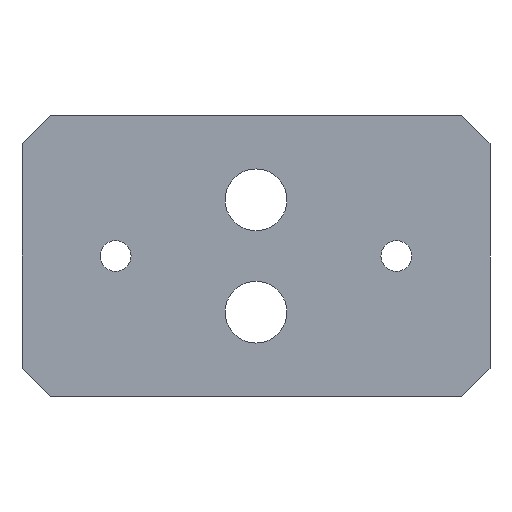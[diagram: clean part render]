
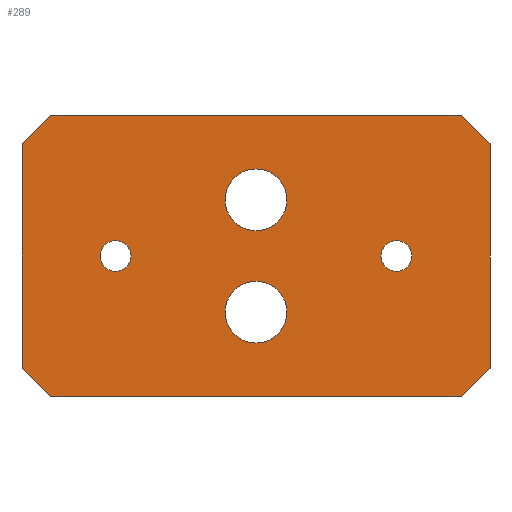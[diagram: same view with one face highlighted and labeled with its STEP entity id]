
A CAD part, front view. The second image highlights one B-rep face of the part: STEP entity #289.
In plain terms, the highlighted planar face has unit normal (0, -1, 0).
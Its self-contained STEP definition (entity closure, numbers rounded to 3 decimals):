
#2 = VERTEX_POINT ( 'NONE', #607 ) ;
#3 = DIRECTION ( 'NONE',  ( 1., 0., 0. ) ) ;
#9 = CARTESIAN_POINT ( 'NONE',  ( -18.5, 0., -18.5 ) ) ;
#29 = AXIS2_PLACEMENT_3D ( 'NONE', #798, #584, #784 ) ;
#30 = DIRECTION ( 'NONE',  ( 0., 0., 1. ) ) ;
#32 = DIRECTION ( 'NONE',  ( 0., 0., -1. ) ) ;
#33 = CARTESIAN_POINT ( 'NONE',  ( 0., 0., -6. ) ) ;
#40 = VERTEX_POINT ( 'NONE', #869 ) ;
#43 = VERTEX_POINT ( 'NONE', #789 ) ;
#44 = CARTESIAN_POINT ( 'NONE',  ( 0., 0., -2.7 ) ) ;
#51 = CARTESIAN_POINT ( 'NONE',  ( 18.5, 0., -18.5 ) ) ;
#61 = EDGE_LOOP ( 'NONE', ( #975, #978, #772, #299, #407, #528, #514, #505 ) ) ;
#69 = VERTEX_POINT ( 'NONE', #502 ) ;
#70 = EDGE_CURVE ( 'NONE', #889, #243, #329, .T. ) ;
#71 = LINE ( 'NONE', #387, #795 ) ;
#78 = LINE ( 'NONE', #292, #688 ) ;
#90 = CARTESIAN_POINT ( 'NONE',  ( -25., 0., 15. ) ) ;
#101 = CARTESIAN_POINT ( 'NONE',  ( 25., 0., -12. ) ) ;
#106 = EDGE_CURVE ( 'NONE', #889, #808, #71, .T. ) ;
#109 = VECTOR ( 'NONE', #609, 1000. ) ;
#117 = EDGE_LOOP ( 'NONE', ( #557, #433 ) ) ;
#126 = EDGE_CURVE ( 'NONE', #40, #599, #440, .T. ) ;
#139 = AXIS2_PLACEMENT_3D ( 'NONE', #33, #333, #489 ) ;
#158 = VECTOR ( 'NONE', #3, 1000. ) ;
#175 = EDGE_CURVE ( 'NONE', #599, #40, #541, .T. ) ;
#181 = CARTESIAN_POINT ( 'NONE',  ( -15., 0., 0. ) ) ;
#188 = EDGE_CURVE ( 'NONE', #734, #564, #493, .T. ) ;
#193 = FACE_BOUND ( 'NONE', #435, .T. ) ;
#195 = CARTESIAN_POINT ( 'NONE',  ( -25., 0., 12. ) ) ;
#208 = EDGE_CURVE ( 'NONE', #875, #381, #558, .T. ) ;
#210 = CARTESIAN_POINT ( 'NONE',  ( -15., 0., 0. ) ) ;
#214 = ORIENTED_EDGE ( 'NONE', *, *, #561, .T. ) ;
#218 = AXIS2_PLACEMENT_3D ( 'NONE', #760, #239, #827 ) ;
#225 = DIRECTION ( 'NONE',  ( 0.707, 0., -0.707 ) ) ;
#234 = CARTESIAN_POINT ( 'NONE',  ( 0., 0., 2.7 ) ) ;
#239 = DIRECTION ( 'NONE',  ( 0., -1., 0. ) ) ;
#243 = VERTEX_POINT ( 'NONE', #341 ) ;
#244 = CARTESIAN_POINT ( 'NONE',  ( 0., 0., 6. ) ) ;
#289 = ADVANCED_FACE ( 'NONE', ( #193, #853, #327, #497, #927 ), #644, .T. ) ;
#292 = CARTESIAN_POINT ( 'NONE',  ( 18.5, 0., 18.5 ) ) ;
#299 = ORIENTED_EDGE ( 'NONE', *, *, #483, .T. ) ;
#303 = DIRECTION ( 'NONE',  ( -0.707, 0., 0.707 ) ) ;
#308 = EDGE_CURVE ( 'NONE', #864, #69, #596, .T. ) ;
#316 = DIRECTION ( 'NONE',  ( 0., 1., 0. ) ) ;
#323 = CARTESIAN_POINT ( 'NONE',  ( -22., 0., -15. ) ) ;
#326 = VERTEX_POINT ( 'NONE', #554 ) ;
#327 = FACE_BOUND ( 'NONE', #117, .T. ) ;
#329 = LINE ( 'NONE', #452, #158 ) ;
#333 = DIRECTION ( 'NONE',  ( 0., -1., 0. ) ) ;
#337 = DIRECTION ( 'NONE',  ( 0., 0., -1. ) ) ;
#341 = CARTESIAN_POINT ( 'NONE',  ( 22., 0., 15. ) ) ;
#345 = ORIENTED_EDGE ( 'NONE', *, *, #370, .T. ) ;
#360 = CARTESIAN_POINT ( 'NONE',  ( -22., 0., 15. ) ) ;
#364 = VERTEX_POINT ( 'NONE', #323 ) ;
#370 = EDGE_CURVE ( 'NONE', #2, #597, #898, .T. ) ;
#373 = CIRCLE ( 'NONE', #949, 1.65 ) ;
#374 = LINE ( 'NONE', #9, #672 ) ;
#381 = VERTEX_POINT ( 'NONE', #101 ) ;
#384 = DIRECTION ( 'NONE',  ( 0., 0., 1. ) ) ;
#387 = CARTESIAN_POINT ( 'NONE',  ( -18.5, 0., 18.5 ) ) ;
#392 = CIRCLE ( 'NONE', #964, 1.65 ) ;
#407 = ORIENTED_EDGE ( 'NONE', *, *, #70, .F. ) ;
#415 = DIRECTION ( 'NONE',  ( 0., 0., -1. ) ) ;
#424 = VECTOR ( 'NONE', #30, 1000. ) ;
#425 = ORIENTED_EDGE ( 'NONE', *, *, #308, .T. ) ;
#432 = EDGE_CURVE ( 'NONE', #43, #808, #862, .T. ) ;
#433 = ORIENTED_EDGE ( 'NONE', *, *, #831, .F. ) ;
#435 = EDGE_LOOP ( 'NONE', ( #839, #425 ) ) ;
#440 = CIRCLE ( 'NONE', #218, 3.3 ) ;
#452 = CARTESIAN_POINT ( 'NONE',  ( -25., 0., 15. ) ) ;
#459 = DIRECTION ( 'NONE',  ( -1., 0., 0. ) ) ;
#472 = DIRECTION ( 'NONE',  ( 0., 0., -1. ) ) ;
#481 = DIRECTION ( 'NONE',  ( 0., 1., 0. ) ) ;
#483 = EDGE_CURVE ( 'NONE', #875, #243, #78, .T. ) ;
#488 = DIRECTION ( 'NONE',  ( 0., -1., 0. ) ) ;
#489 = DIRECTION ( 'NONE',  ( 0., 0., -1. ) ) ;
#492 = EDGE_CURVE ( 'NONE', #326, #364, #526, .T. ) ;
#493 = CIRCLE ( 'NONE', #736, 3.3 ) ;
#497 = FACE_BOUND ( 'NONE', #969, .T. ) ;
#502 = CARTESIAN_POINT ( 'NONE',  ( -15., 0., 1.65 ) ) ;
#505 = ORIENTED_EDGE ( 'NONE', *, *, #520, .T. ) ;
#508 = AXIS2_PLACEMENT_3D ( 'NONE', #181, #481, #562 ) ;
#514 = ORIENTED_EDGE ( 'NONE', *, *, #432, .F. ) ;
#515 = DIRECTION ( 'NONE',  ( 0., 1., 0. ) ) ;
#520 = EDGE_CURVE ( 'NONE', #43, #364, #374, .T. ) ;
#525 = CARTESIAN_POINT ( 'NONE',  ( 0., 0., -9.3 ) ) ;
#526 = LINE ( 'NONE', #684, #621 ) ;
#528 = ORIENTED_EDGE ( 'NONE', *, *, #106, .T. ) ;
#541 = CIRCLE ( 'NONE', #779, 3.3 ) ;
#554 = CARTESIAN_POINT ( 'NONE',  ( 22., 0., -15. ) ) ;
#557 = ORIENTED_EDGE ( 'NONE', *, *, #188, .F. ) ;
#558 = LINE ( 'NONE', #631, #818 ) ;
#560 = AXIS2_PLACEMENT_3D ( 'NONE', #936, #638, #337 ) ;
#561 = EDGE_CURVE ( 'NONE', #597, #2, #373, .T. ) ;
#562 = DIRECTION ( 'NONE',  ( 0., 0., 1. ) ) ;
#564 = VERTEX_POINT ( 'NONE', #525 ) ;
#572 = EDGE_LOOP ( 'NONE', ( #345, #214 ) ) ;
#578 = CARTESIAN_POINT ( 'NONE',  ( 0., 0., -6. ) ) ;
#584 = DIRECTION ( 'NONE',  ( 0., 1., 0. ) ) ;
#596 = CIRCLE ( 'NONE', #508, 1.65 ) ;
#597 = VERTEX_POINT ( 'NONE', #622 ) ;
#599 = VERTEX_POINT ( 'NONE', #234 ) ;
#607 = CARTESIAN_POINT ( 'NONE',  ( 15., 0., 1.65 ) ) ;
#609 = DIRECTION ( 'NONE',  ( 0.707, 0., 0.707 ) ) ;
#621 = VECTOR ( 'NONE', #459, 1000. ) ;
#622 = CARTESIAN_POINT ( 'NONE',  ( 15., 0., -1.65 ) ) ;
#631 = CARTESIAN_POINT ( 'NONE',  ( 25., 0., 15. ) ) ;
#638 = DIRECTION ( 'NONE',  ( 0., -1., 0. ) ) ;
#644 = PLANE ( 'NONE',  #560 ) ;
#661 = CIRCLE ( 'NONE', #139, 3.3 ) ;
#672 = VECTOR ( 'NONE', #225, 1000. ) ;
#677 = LINE ( 'NONE', #51, #109 ) ;
#684 = CARTESIAN_POINT ( 'NONE',  ( -25., 0., -15. ) ) ;
#687 = DIRECTION ( 'NONE',  ( -0.707, 0., -0.707 ) ) ;
#688 = VECTOR ( 'NONE', #303, 1000. ) ;
#726 = DIRECTION ( 'NONE',  ( 0., -1., 0. ) ) ;
#734 = VERTEX_POINT ( 'NONE', #44 ) ;
#736 = AXIS2_PLACEMENT_3D ( 'NONE', #578, #726, #32 ) ;
#737 = ORIENTED_EDGE ( 'NONE', *, *, #175, .F. ) ;
#745 = CARTESIAN_POINT ( 'NONE',  ( -15., 0., -1.65 ) ) ;
#760 = CARTESIAN_POINT ( 'NONE',  ( 0., 0., 6. ) ) ;
#772 = ORIENTED_EDGE ( 'NONE', *, *, #208, .F. ) ;
#779 = AXIS2_PLACEMENT_3D ( 'NONE', #244, #488, #415 ) ;
#784 = DIRECTION ( 'NONE',  ( 0., 0., 1. ) ) ;
#786 = ORIENTED_EDGE ( 'NONE', *, *, #126, .F. ) ;
#789 = CARTESIAN_POINT ( 'NONE',  ( -25., 0., -12. ) ) ;
#795 = VECTOR ( 'NONE', #687, 1000. ) ;
#798 = CARTESIAN_POINT ( 'NONE',  ( 15., 0., 0. ) ) ;
#808 = VERTEX_POINT ( 'NONE', #195 ) ;
#818 = VECTOR ( 'NONE', #472, 1000. ) ;
#827 = DIRECTION ( 'NONE',  ( 0., 0., -1. ) ) ;
#831 = EDGE_CURVE ( 'NONE', #564, #734, #661, .T. ) ;
#839 = ORIENTED_EDGE ( 'NONE', *, *, #932, .T. ) ;
#853 = FACE_BOUND ( 'NONE', #572, .T. ) ;
#862 = LINE ( 'NONE', #90, #424 ) ;
#864 = VERTEX_POINT ( 'NONE', #745 ) ;
#869 = CARTESIAN_POINT ( 'NONE',  ( 0., 0., 9.3 ) ) ;
#875 = VERTEX_POINT ( 'NONE', #968 ) ;
#887 = DIRECTION ( 'NONE',  ( 0., 0., 1. ) ) ;
#889 = VERTEX_POINT ( 'NONE', #360 ) ;
#891 = EDGE_CURVE ( 'NONE', #326, #381, #677, .T. ) ;
#898 = CIRCLE ( 'NONE', #29, 1.65 ) ;
#927 = FACE_OUTER_BOUND ( 'NONE', #61, .T. ) ;
#928 = CARTESIAN_POINT ( 'NONE',  ( 15., 0., 0. ) ) ;
#932 = EDGE_CURVE ( 'NONE', #69, #864, #392, .T. ) ;
#936 = CARTESIAN_POINT ( 'NONE',  ( 0., 0., 0. ) ) ;
#949 = AXIS2_PLACEMENT_3D ( 'NONE', #928, #316, #384 ) ;
#964 = AXIS2_PLACEMENT_3D ( 'NONE', #210, #515, #887 ) ;
#968 = CARTESIAN_POINT ( 'NONE',  ( 25., 0., 12. ) ) ;
#969 = EDGE_LOOP ( 'NONE', ( #786, #737 ) ) ;
#975 = ORIENTED_EDGE ( 'NONE', *, *, #492, .F. ) ;
#978 = ORIENTED_EDGE ( 'NONE', *, *, #891, .T. ) ;
